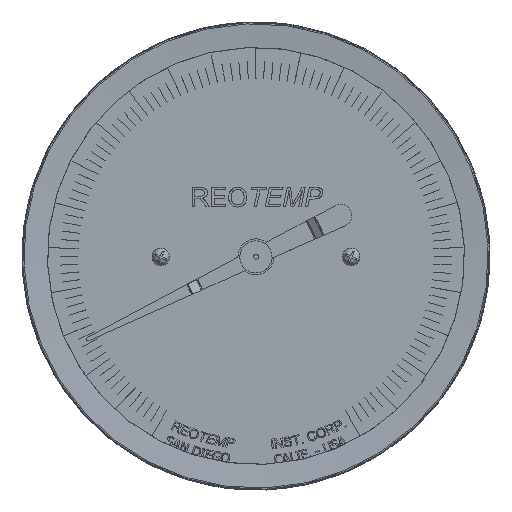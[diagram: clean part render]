
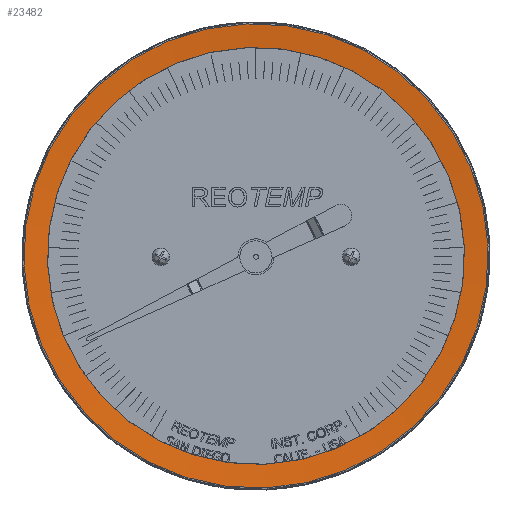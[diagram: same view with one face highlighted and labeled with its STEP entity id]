
A CAD part, top view. The second image highlights one B-rep face of the part: STEP entity #23482.
In plain terms, the highlighted conical face has half-angle 85 degrees and reference radius 48.017 mm.
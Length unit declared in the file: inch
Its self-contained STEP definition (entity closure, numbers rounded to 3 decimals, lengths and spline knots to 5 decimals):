
#7355=CONICAL_SURFACE($,#24817,1.89042,85.);
#8428=FACE_BOUND($,#10020,.T.);
#8726=FACE_OUTER_BOUND($,#10019,.T.);
#10019=EDGE_LOOP($,(#17103));
#10020=EDGE_LOOP($,(#17104));
#11513=CIRCLE($,#24816,1.78175);
#11514=CIRCLE($,#24818,1.98369);
#11603=VERTEX_POINT($,#31115);
#11604=VERTEX_POINT($,#31118);
#13786=EDGE_CURVE($,#11603,#11603,#11513,.T.);
#13787=EDGE_CURVE($,#11604,#11604,#11514,.T.);
#17103=ORIENTED_EDGE($,*,*,#13787,.F.);
#17104=ORIENTED_EDGE($,*,*,#13786,.F.);
#23482=ADVANCED_FACE($,(#8726,#8428),#7355,.F.);
#24816=AXIS2_PLACEMENT_3D($,#31116,#26062,#26063);
#24817=AXIS2_PLACEMENT_3D($,#31117,#26064,#26065);
#24818=AXIS2_PLACEMENT_3D($,#31119,#26066,#26067);
#26062=DIRECTION('center_axis',(0.,0.,
1.));
#26063=DIRECTION('ref_axis',(-0.991,0.131,0.));
#26064=DIRECTION('center_axis',(0.,0.,
1.));
#26065=DIRECTION('ref_axis',(0.991,-0.131,0.));
#26066=DIRECTION('center_axis',(0.,0.,
-1.));
#26067=DIRECTION('ref_axis',(-0.991,0.131,0.));
#31115=CARTESIAN_POINT('',(9.50124,1.60511,6.3662));
#31116=CARTESIAN_POINT('Origin',(7.73493,1.83921,6.3662));
#31117=CARTESIAN_POINT('Origin',(7.73493,1.83921,6.37571));
#31118=CARTESIAN_POINT('',(9.70143,1.57858,6.38387));
#31119=CARTESIAN_POINT('Origin',(7.73493,1.83921,6.38387));
